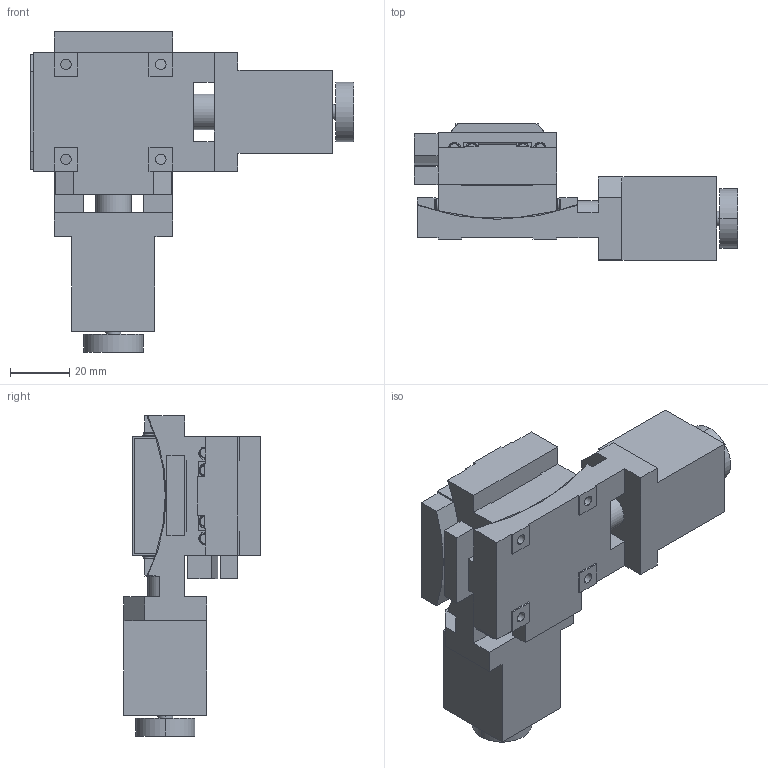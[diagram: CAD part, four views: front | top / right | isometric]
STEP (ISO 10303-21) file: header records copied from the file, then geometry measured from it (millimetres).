
FILE_DESCRIPTION (( 'STEP AP203' ), '1' );
FILE_NAME ('ATD-C412B-HM.STEP', '2017-03-28T02:31:45', ( '' ), ( '' ), 'SwSTEP 2.0', 'SolidWorks 2016', '' );
FILE_SCHEMA (( 'CONFIG_CONTROL_DESIGN' ));
Length unit declared in the file: millimetre
Products named in the file (4): ATD-C412B-HM-1; ATD-C412B-HM-2; ATD-C412B-HM-3; ATD-C412B-HM
Assembly tree (3 placements, depth 2):
  ATD-C412B-HM
    ATD-C412B-HM-1
    ATD-C412B-HM-2
    ATD-C412B-HM-3
Bounding box: 109 x 46 x 108 mm (x, y, z)
Volume: 151245.2 mm3; surface area: 43239.8 mm2
Topology: 3 solids, 11 shells, 452 faces, 1112 edges, 718 vertices
Faces by surface type: plane 218, cylinder 190, cone 44
Entity records: 14524 total; most frequent: CARTESIAN_POINT 3088, DIRECTION 2398, ORIENTED_EDGE 2224, EDGE_CURVE 1112, AXIS2_PLACEMENT_3D 888, VERTEX_POINT 718, LINE 622, VECTOR 622
